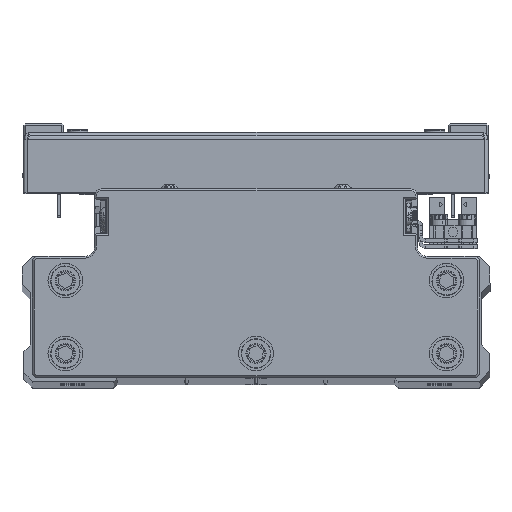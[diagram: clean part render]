
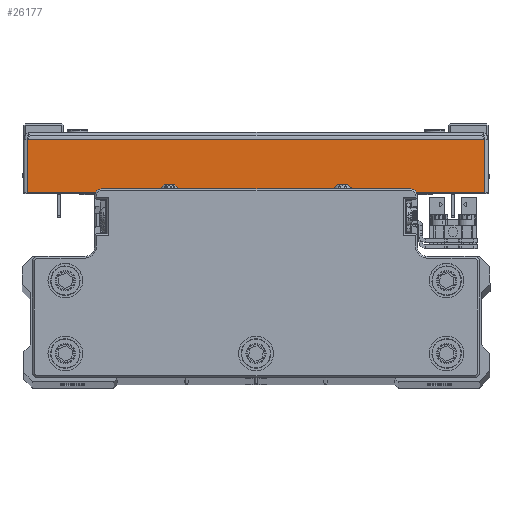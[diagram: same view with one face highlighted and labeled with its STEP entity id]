
A CAD part, top view. The second image highlights one B-rep face of the part: STEP entity #26177.
In plain terms, the highlighted planar face has unit normal (0, 0, 1) as drawn and (1, 0, 0) by its records, which use the part's own axes.
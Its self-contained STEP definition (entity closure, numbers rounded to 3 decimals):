
#522 = VECTOR ( 'NONE', #39913, 1000. ) ;
#827 = DIRECTION ( 'NONE',  ( 0., -1., 0. ) ) ;
#2120 = ORIENTED_EDGE ( 'NONE', *, *, #41474, .T. ) ;
#4197 = PLANE ( 'NONE',  #19407 ) ;
#5915 = VECTOR ( 'NONE', #7230, 1000. ) ;
#7230 = DIRECTION ( 'NONE',  ( 0., 1., 0. ) ) ;
#8431 = LINE ( 'NONE', #22128, #30636 ) ;
#8709 = LINE ( 'NONE', #22416, #26758 ) ;
#9029 = ORIENTED_EDGE ( 'NONE', *, *, #33798, .F. ) ;
#11688 = CARTESIAN_POINT ( 'NONE',  ( 75., 1., 65.929 ) ) ;
#12553 = LINE ( 'NONE', #26231, #522 ) ;
#12596 = VERTEX_POINT ( 'NONE', #11688 ) ;
#12816 = CARTESIAN_POINT ( 'NONE',  ( 75., 1., -65.929 ) ) ;
#17928 = CARTESIAN_POINT ( 'NONE',  ( 75., 0., 0. ) ) ;
#19407 = AXIS2_PLACEMENT_3D ( 'NONE', #17928, #31603, #827 ) ;
#22128 = CARTESIAN_POINT ( 'NONE',  ( 75., 16.5, 0. ) ) ;
#22416 = CARTESIAN_POINT ( 'NONE',  ( 75., 1., 67. ) ) ;
#23509 = EDGE_CURVE ( 'NONE', #42455, #12596, #8709, .T. ) ;
#24289 = LINE ( 'NONE', #37965, #5915 ) ;
#24839 = ORIENTED_EDGE ( 'NONE', *, *, #23509, .F. ) ;
#25966 = VERTEX_POINT ( 'NONE', #43529 ) ;
#26177 = ADVANCED_FACE ( 'NONE', ( #34967 ), #4197, .F. ) ;
#26231 = CARTESIAN_POINT ( 'NONE',  ( 75., 0., 65.929 ) ) ;
#26758 = VECTOR ( 'NONE', #36108, 1000. ) ;
#27744 = CARTESIAN_POINT ( 'NONE',  ( 75., 16.5, -65.929 ) ) ;
#30636 = VECTOR ( 'NONE', #35808, 1000. ) ;
#31603 = DIRECTION ( 'NONE',  ( -1., 0., 0. ) ) ;
#32083 = ORIENTED_EDGE ( 'NONE', *, *, #36048, .T. ) ;
#33798 = EDGE_CURVE ( 'NONE', #12596, #25966, #12553, .T. ) ;
#34013 = VERTEX_POINT ( 'NONE', #27744 ) ;
#34967 = FACE_OUTER_BOUND ( 'NONE', #39411, .T. ) ;
#35808 = DIRECTION ( 'NONE',  ( 0., 0., 1. ) ) ;
#36048 = EDGE_CURVE ( 'NONE', #42455, #34013, #24289, .T. ) ;
#36108 = DIRECTION ( 'NONE',  ( 0., 0., 1. ) ) ;
#37965 = CARTESIAN_POINT ( 'NONE',  ( 75., 0., -65.929 ) ) ;
#39411 = EDGE_LOOP ( 'NONE', ( #24839, #32083, #2120, #9029 ) ) ;
#39913 = DIRECTION ( 'NONE',  ( 0., 1., 0. ) ) ;
#41474 = EDGE_CURVE ( 'NONE', #34013, #25966, #8431, .T. ) ;
#42455 = VERTEX_POINT ( 'NONE', #12816 ) ;
#43529 = CARTESIAN_POINT ( 'NONE',  ( 75., 16.5, 65.929 ) ) ;
